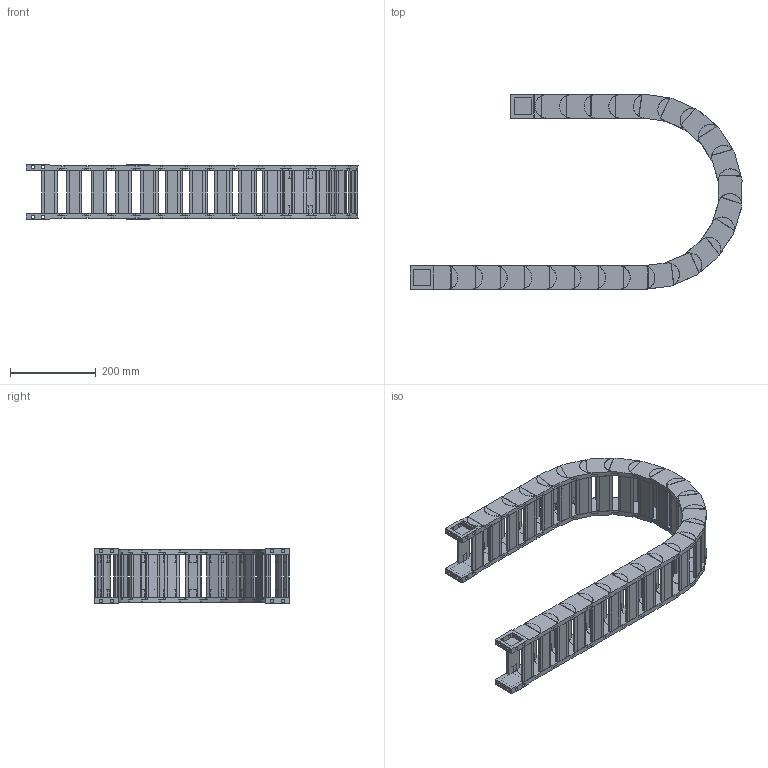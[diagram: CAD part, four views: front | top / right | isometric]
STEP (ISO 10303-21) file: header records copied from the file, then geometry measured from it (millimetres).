
FILE_DESCRIPTION((''),'2;1');
FILE_NAME('HD35-R200-ZPT_ASM','2022-06-17T11:41:27',('admin'),(''),'CREO PARAMETRIC BY PTC INC, 2021164','CREO PARAMETRIC BY PTC INC, 2021164','');
FILE_SCHEMA(('CONFIG_CONTROL_DESIGN','GEOMETRIC_VALIDATION_PROPERTIES_MIM'));
Length unit declared in the file: millimetre
Products named in the file (6): HD35; 35-600001; HD35_ASM; 35-TL_11; 35-WL; HD35-R200-ZPT_ASM
Assembly tree (29 placements, depth 3):
  HD35-R200-ZPT_ASM
    HD35_ASM  x23
      HD35
      35-600001
    35-TL_11
    35-WL
    35-600001  x2
Bounding box: 775.24 x 454.93 x 128.3 mm (x, y, z)
Volume: 3469866.7 mm3; surface area: 1242269 mm2
Topology: 100 solids, 100 shells, 1858 faces, 4946 edges, 3392 vertices
Faces by surface type: plane 1268, cylinder 590
Entity records: 9467 total; most frequent: DIRECTION 1432, CARTESIAN_POINT 1422, ORIENTED_EDGE 1300, EDGE_CURVE 650, AXIS2_PLACEMENT_3D 511, VERTEX_POINT 440, VECTOR 410, LINE 410
